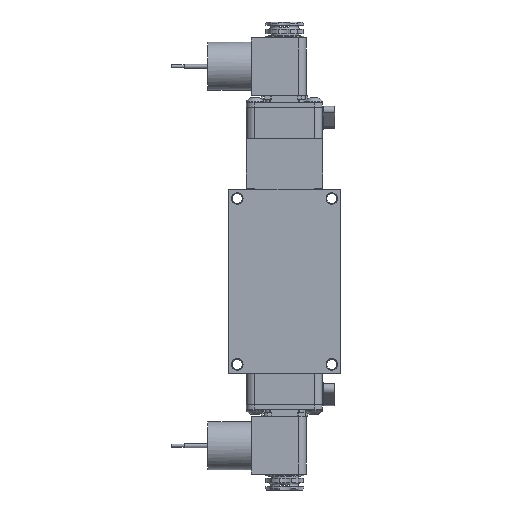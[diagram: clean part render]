
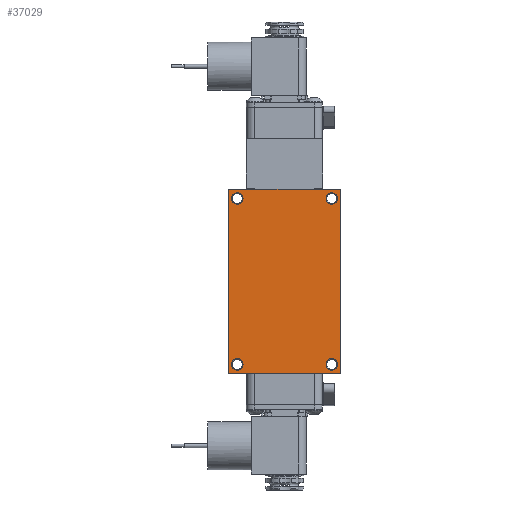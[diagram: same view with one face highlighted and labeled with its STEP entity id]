
A CAD part, front view. The second image highlights one B-rep face of the part: STEP entity #37029.
In plain terms, the highlighted planar face has unit normal (0, -1, 0).
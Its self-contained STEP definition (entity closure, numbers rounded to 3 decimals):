
#1318=FACE_BOUND('',#5431,.T.);
#1319=FACE_BOUND('',#5432,.T.);
#1320=FACE_BOUND('',#5433,.T.);
#1321=FACE_BOUND('',#5434,.T.);
#1785=PLANE('',#39938);
#3183=FACE_OUTER_BOUND('',#5430,.T.);
#5430=EDGE_LOOP('',(#26594,#26595,#26596,#26597));
#5431=EDGE_LOOP('',(#26598));
#5432=EDGE_LOOP('',(#26599));
#5433=EDGE_LOOP('',(#26600));
#5434=EDGE_LOOP('',(#26601));
#7773=CIRCLE('',#39927,0.296);
#7775=CIRCLE('',#39931,0.296);
#7777=CIRCLE('',#39935,0.296);
#7779=CIRCLE('',#39939,0.296);
#9835=LINE('',#59401,#12566);
#9836=LINE('',#59403,#12567);
#9837=LINE('',#59405,#12568);
#9838=LINE('',#59406,#12569);
#12566=VECTOR('',#46251,1.);
#12567=VECTOR('',#46252,1.);
#12568=VECTOR('',#46253,1.);
#12569=VECTOR('',#46254,1.);
#15575=VERTEX_POINT('',#59375);
#15577=VERTEX_POINT('',#59383);
#15579=VERTEX_POINT('',#59391);
#15581=VERTEX_POINT('',#59399);
#15582=VERTEX_POINT('',#59400);
#15583=VERTEX_POINT('',#59402);
#15584=VERTEX_POINT('',#59404);
#15585=VERTEX_POINT('',#59407);
#19586=EDGE_CURVE('',#15575,#15575,#7773,.T.);
#19590=EDGE_CURVE('',#15577,#15577,#7775,.T.);
#19594=EDGE_CURVE('',#15579,#15579,#7777,.T.);
#19598=EDGE_CURVE('',#15581,#15582,#9835,.T.);
#19599=EDGE_CURVE('',#15583,#15581,#9836,.T.);
#19600=EDGE_CURVE('',#15584,#15583,#9837,.T.);
#19601=EDGE_CURVE('',#15582,#15584,#9838,.T.);
#19602=EDGE_CURVE('',#15585,#15585,#7779,.T.);
#26594=ORIENTED_EDGE('',*,*,#19598,.F.);
#26595=ORIENTED_EDGE('',*,*,#19599,.F.);
#26596=ORIENTED_EDGE('',*,*,#19600,.F.);
#26597=ORIENTED_EDGE('',*,*,#19601,.F.);
#26598=ORIENTED_EDGE('',*,*,#19594,.F.);
#26599=ORIENTED_EDGE('',*,*,#19586,.F.);
#26600=ORIENTED_EDGE('',*,*,#19590,.F.);
#26601=ORIENTED_EDGE('',*,*,#19602,.F.);
#37029=ADVANCED_FACE('',(#3183,#1318,#1319,#1320,#1321),#1785,.F.);
#39927=AXIS2_PLACEMENT_3D('',#59376,#46221,#46222);
#39931=AXIS2_PLACEMENT_3D('',#59384,#46231,#46232);
#39935=AXIS2_PLACEMENT_3D('',#59392,#46241,#46242);
#39938=AXIS2_PLACEMENT_3D('',#59398,#46249,#46250);
#39939=AXIS2_PLACEMENT_3D('',#59408,#46255,#46256);
#46221=DIRECTION('center_axis',(0.,-1.,0.));
#46222=DIRECTION('ref_axis',(1.,0.,0.));
#46231=DIRECTION('center_axis',(0.,-1.,0.));
#46232=DIRECTION('ref_axis',(1.,0.,0.));
#46241=DIRECTION('center_axis',(0.,-1.,0.));
#46242=DIRECTION('ref_axis',(1.,0.,0.));
#46249=DIRECTION('center_axis',(0.,1.,0.));
#46250=DIRECTION('ref_axis',(0.,0.,1.));
#46251=DIRECTION('',(0.,0.,-1.));
#46252=DIRECTION('',(1.,0.,0.));
#46253=DIRECTION('',(0.,0.,1.));
#46254=DIRECTION('',(-1.,0.,0.));
#46255=DIRECTION('center_axis',(0.,-1.,0.));
#46256=DIRECTION('ref_axis',(1.,0.,0.));
#59375=CARTESIAN_POINT('',(2.125,-1.636,-4.247));
#59376=CARTESIAN_POINT('Origin',(2.421,-1.636,-4.247));
#59383=CARTESIAN_POINT('',(-2.717,-1.636,-4.247));
#59384=CARTESIAN_POINT('Origin',(-2.421,-1.636,-4.247));
#59391=CARTESIAN_POINT('',(-2.717,-1.636,4.247));
#59392=CARTESIAN_POINT('Origin',(-2.421,-1.636,4.247));
#59398=CARTESIAN_POINT('Origin',(0.,-1.636,0.));
#59399=CARTESIAN_POINT('',(2.858,-1.636,4.71));
#59400=CARTESIAN_POINT('',(2.858,-1.636,-4.71));
#59401=CARTESIAN_POINT('',(2.858,-1.636,-4.71));
#59402=CARTESIAN_POINT('',(-2.858,-1.636,4.71));
#59403=CARTESIAN_POINT('',(2.858,-1.636,4.71));
#59404=CARTESIAN_POINT('',(-2.858,-1.636,-4.71));
#59405=CARTESIAN_POINT('',(-2.858,-1.636,4.71));
#59406=CARTESIAN_POINT('',(-2.858,-1.636,-4.71));
#59407=CARTESIAN_POINT('',(2.125,-1.636,4.247));
#59408=CARTESIAN_POINT('Origin',(2.421,-1.636,4.247));
